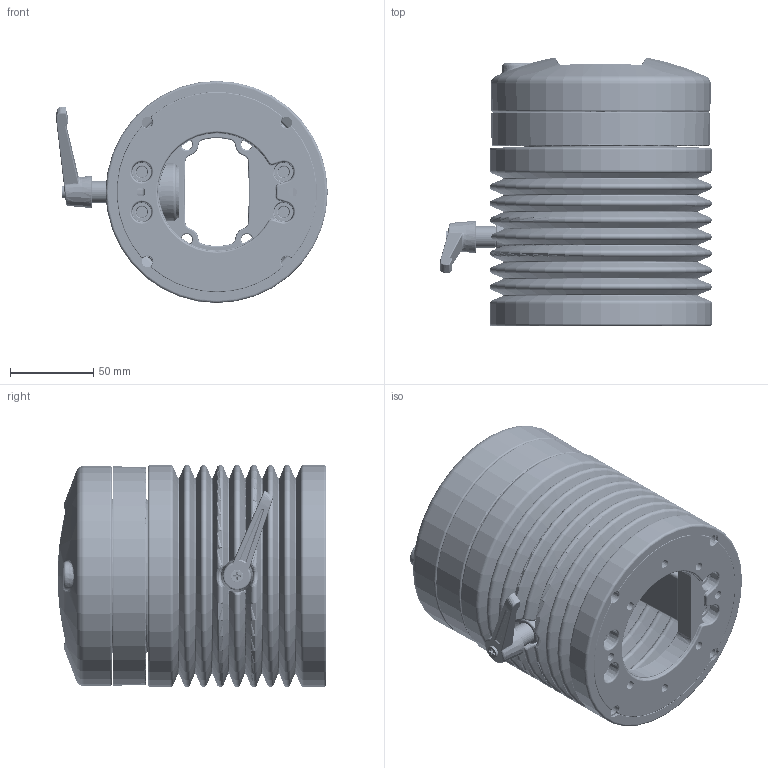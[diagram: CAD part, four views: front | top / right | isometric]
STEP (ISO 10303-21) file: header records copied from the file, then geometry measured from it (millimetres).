
FILE_DESCRIPTION (( 'STEP AP203' ), '1' );
FILE_NAME ('TK060.845.STEP', '2018-06-08T11:30:44', ( '' ), ( '' ), 'SwSTEP 2.0', 'SolidWorks 2018', '' );
FILE_SCHEMA (( 'CONFIG_CONTROL_DESIGN' ));
Length unit declared in the file: millimetre
Products named in the file (1): TK060.845
Bounding box: 162.59 x 160.91 x 133 mm (x, y, z)
Volume: 803434.9 mm3; surface area: 376594.4 mm2
Topology: 9 solids, 19 shells, 3648 faces, 8491 edges, 5013 vertices
Faces by surface type: torus 1181, cone 974, bspline 726, plane 351, cylinder 328, sphere 88
Entity records: 137613 total; most frequent: CARTESIAN_POINT 57598, DIRECTION 17504, ORIENTED_EDGE 16834, EDGE_CURVE 8417, AXIS2_PLACEMENT_3D 8055, CIRCLE 5134, VERTEX_POINT 4984, EDGE_LOOP 3905
